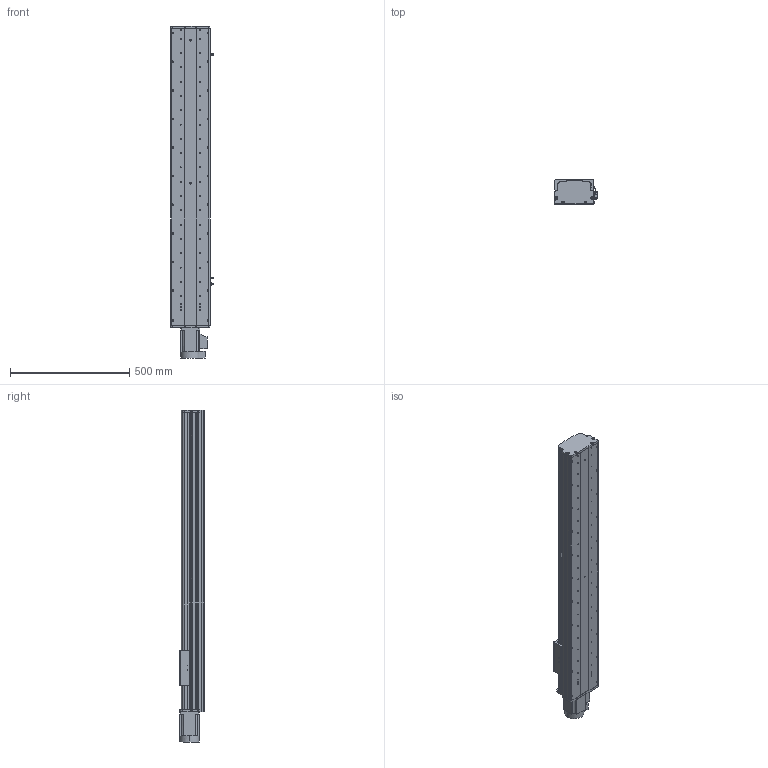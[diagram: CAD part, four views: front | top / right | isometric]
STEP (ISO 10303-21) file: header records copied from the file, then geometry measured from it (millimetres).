
FILE_DESCRIPTION (( 'STEP AP214' ), '1' );
FILE_NAME ('KSD165S-S950-MN-CM.STEP', '2017-08-07T08:19:11', ( '微软用户' ), ( '微软中国' ), 'SwSTEP 2.0', 'SolidWorks 2014', '' );
FILE_SCHEMA (( 'AUTOMOTIVE_DESIGN' ));
Length unit declared in the file: millimetre
Products named in the file (12): KSD165S-S950-MN-CM; KSD165模组-防尘盖1-950行程-直连不带电机座; KSD165模组底板-950行程-直连不带电机座; 拸秶雄ん750W侜督萇儂; KSD165模组-直连不带电机座电机连接板; KSD165耀郪-佪裝-滅袉菜-3 -; C44ㄜ1912WP; 覜茼え68遵圉猾敕; U倰嫖萇假蚾璃; U倰嫖萇EEㄜSX672; KSD165耀郪-綴傷啣1; KSD165模组-丝杆滑动座-最新版
Assembly tree (15 placements, depth 2):
  KSD165S-S950-MN-CM
    KSD165模组-丝杆滑动座-最新版
    KSD165耀郪-綴傷啣1
    U倰嫖萇EEㄜSX672  x3
    U倰嫖萇假蚾璃  x3
    覜茼え68遵圉猾敕
    C44ㄜ1912WP
    KSD165耀郪-佪裝-滅袉菜-3 -
    KSD165模组-直连不带电机座电机连接板
    拸秶雄ん750W侜督萇儂
    KSD165模组底板-950行程-直连不带电机座
    KSD165模组-防尘盖1-950行程-直连不带电机座
Bounding box: 178.7 x 104 x 1393 mm (x, y, z)
Volume: 7640101.7 mm3; surface area: 1697591 mm2
Topology: 16 solids, 16 shells, 1255 faces, 3520 edges, 2285 vertices
Faces by surface type: cylinder 679, plane 499, cone 77
Entity records: 40055 total; most frequent: CARTESIAN_POINT 8931, DIRECTION 5945, ORIENTED_EDGE 5720, EDGE_CURVE 2860, AXIS2_PLACEMENT_3D 2243, VERTEX_POINT 1877, LINE 1459, VECTOR 1459
